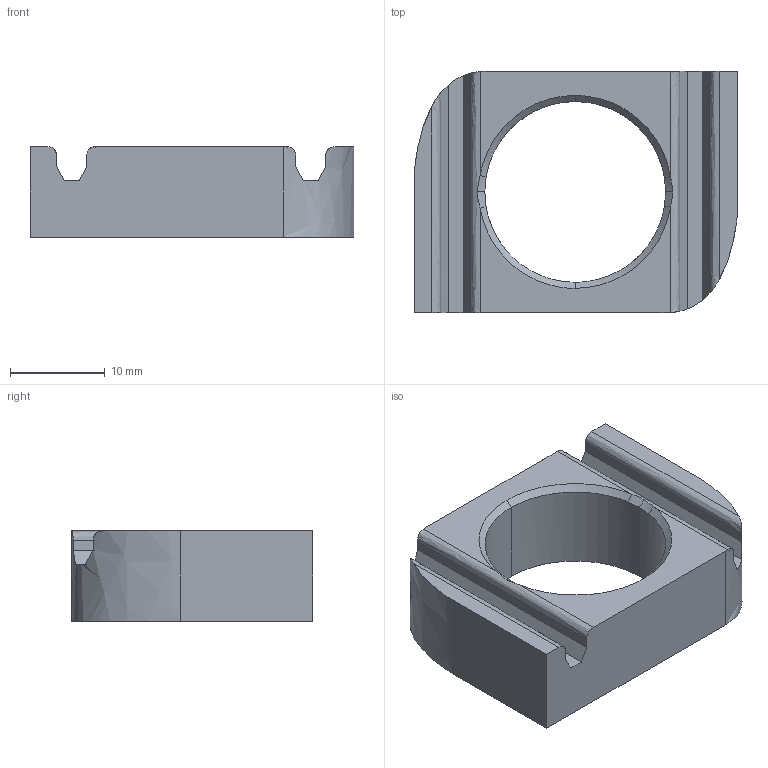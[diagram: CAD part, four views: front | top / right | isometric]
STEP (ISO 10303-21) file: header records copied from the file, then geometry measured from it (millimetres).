
FILE_DESCRIPTION(('TurboCAD Mac Pro'),'Build 980');
FILE_NAME('P4023.stp',' ',(''),(''),'ACIS Interop','IMSI','TurboCAD Mac Pro BY IMSI, INCORPORATED');
FILE_SCHEMA(('automotive_design'));
Length unit declared in the file: inch
Products named in the file (1): 1
Bounding box: 34.13 x 25.4 x 9.53 mm (x, y, z)
Volume: 4679.1 mm3; surface area: 2908.8 mm2
Topology: 1 solids, 1 shells, 41 faces, 112 edges, 72 vertices
Faces by surface type: plane 23, bspline 18
Entity records: 2161 total; most frequent: CARTESIAN_POINT 913, ORIENTED_EDGE 224, DIRECTION 115, EDGE_CURVE 112, VERTEX_POINT 72, LINE 67, VECTOR 67, B_SPLINE_CURVE_WITH_KNOTS 45
